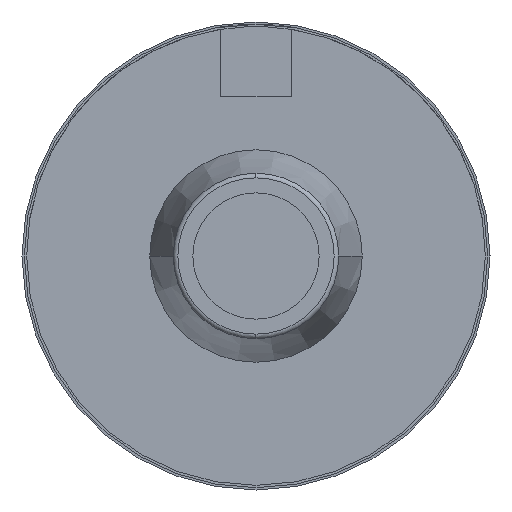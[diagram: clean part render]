
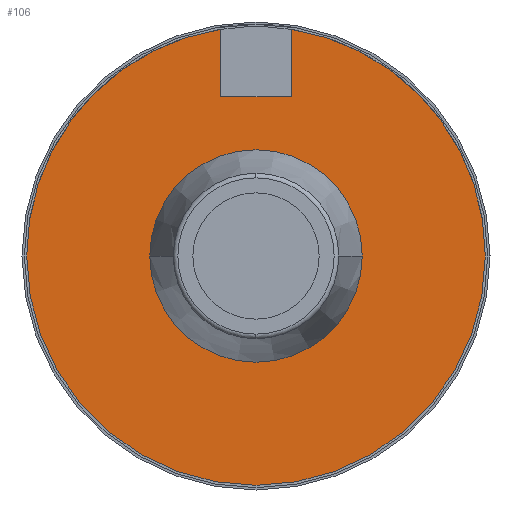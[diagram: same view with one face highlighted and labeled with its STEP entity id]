
A CAD part, left-side view. The second image highlights one B-rep face of the part: STEP entity #106.
In plain terms, the highlighted planar face has unit normal (-1, 0, 0).
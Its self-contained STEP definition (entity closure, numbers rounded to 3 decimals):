
#106 = ADVANCED_FACE( '', ( #183, #184 ), #185, .T. );
#183 = FACE_OUTER_BOUND( '', #271, .T. );
#184 = FACE_BOUND( '', #272, .T. );
#185 = PLANE( '', #273 );
#271 = EDGE_LOOP( '', ( #525, #526, #527, #528, #529, #530 ) );
#272 = EDGE_LOOP( '', ( #531, #532 ) );
#273 = AXIS2_PLACEMENT_3D( '', #533, #534, #535 );
#525 = ORIENTED_EDGE( '', *, *, #657, .T. );
#526 = ORIENTED_EDGE( '', *, *, #667, .T. );
#527 = ORIENTED_EDGE( '', *, *, #655, .T. );
#528 = ORIENTED_EDGE( '', *, *, #668, .T. );
#529 = ORIENTED_EDGE( '', *, *, #666, .T. );
#530 = ORIENTED_EDGE( '', *, *, #663, .T. );
#531 = ORIENTED_EDGE( '', *, *, #622, .F. );
#532 = ORIENTED_EDGE( '', *, *, #681, .F. );
#533 = CARTESIAN_POINT( '', ( 0., 6.773, 0. ) );
#534 = DIRECTION( '', ( -1., 0., 0. ) );
#535 = DIRECTION( '', ( 0., 1., 0. ) );
#622 = EDGE_CURVE( '', #734, #737, #738, .T. );
#655 = EDGE_CURVE( '', #795, #799, #801, .T. );
#657 = EDGE_CURVE( '', #805, #802, #806, .T. );
#663 = EDGE_CURVE( '', #815, #805, #816, .T. );
#666 = EDGE_CURVE( '', #818, #815, #820, .T. );
#667 = EDGE_CURVE( '', #802, #795, #821, .T. );
#668 = EDGE_CURVE( '', #799, #818, #822, .T. );
#681 = EDGE_CURVE( '', #737, #734, #835, .T. );
#734 = VERTEX_POINT( '', #892 );
#737 = VERTEX_POINT( '', #896 );
#738 = CIRCLE( '', #897, 3.746 );
#795 = VERTEX_POINT( '', #991 );
#799 = VERTEX_POINT( '', #996 );
#801 = CIRCLE( '', #999, 9.8 );
#802 = VERTEX_POINT( '', #1000 );
#805 = VERTEX_POINT( '', #1004 );
#806 = LINE( '', #1005, #1006 );
#815 = VERTEX_POINT( '', #1019 );
#816 = LINE( '', #1020, #1021 );
#818 = VERTEX_POINT( '', #1024 );
#820 = LINE( '', #1027, #1028 );
#821 = CIRCLE( '', #1029, 9.8 );
#822 = CIRCLE( '', #1030, 9.8 );
#835 = CIRCLE( '', #1068, 3.746 );
#892 = CARTESIAN_POINT( '', ( 0., 3.746, 0. ) );
#896 = CARTESIAN_POINT( '', ( 0., -3.746, 0. ) );
#897 = AXIS2_PLACEMENT_3D( '', #1143, #1144, #1145 );
#991 = CARTESIAN_POINT( '', ( 0., 9.8, 0. ) );
#996 = CARTESIAN_POINT( '', ( 0., -9.8, 0. ) );
#999 = AXIS2_PLACEMENT_3D( '', #1210, #1211, #1212 );
#1000 = CARTESIAN_POINT( '', ( 0., 1.5, 9.685 ) );
#1004 = CARTESIAN_POINT( '', ( 0., 1.5, 6.8 ) );
#1005 = CARTESIAN_POINT( '', ( 0., 1.5, 5.4 ) );
#1006 = VECTOR( '', #1214, 1. );
#1019 = CARTESIAN_POINT( '', ( 0., -1.5, 6.8 ) );
#1020 = CARTESIAN_POINT( '', ( 0., 4.136, 6.8 ) );
#1021 = VECTOR( '', #1222, 1. );
#1024 = CARTESIAN_POINT( '', ( 0., -1.5, 9.685 ) );
#1027 = CARTESIAN_POINT( '', ( 0., -1.5, 3.4 ) );
#1028 = VECTOR( '', #1225, 1. );
#1029 = AXIS2_PLACEMENT_3D( '', #1226, #1227, #1228 );
#1030 = AXIS2_PLACEMENT_3D( '', #1229, #1230, #1231 );
#1068 = AXIS2_PLACEMENT_3D( '', #1265, #1266, #1267 );
#1143 = CARTESIAN_POINT( '', ( 0., 0., 0. ) );
#1144 = DIRECTION( '', ( -1., 0., 0. ) );
#1145 = DIRECTION( '', ( 0., 1., 0. ) );
#1210 = CARTESIAN_POINT( '', ( 0., 0., 0. ) );
#1211 = DIRECTION( '', ( -1., 0., 0. ) );
#1212 = DIRECTION( '', ( 0., 1., 0. ) );
#1214 = DIRECTION( '', ( 0., 0., 1. ) );
#1222 = DIRECTION( '', ( 0., 1., 0. ) );
#1225 = DIRECTION( '', ( 0., 0., -1. ) );
#1226 = CARTESIAN_POINT( '', ( 0., 0., 0. ) );
#1227 = DIRECTION( '', ( -1., 0., 0. ) );
#1228 = DIRECTION( '', ( 0., 1., 0. ) );
#1229 = CARTESIAN_POINT( '', ( 0., 0., 0. ) );
#1230 = DIRECTION( '', ( -1., 0., 0. ) );
#1231 = DIRECTION( '', ( 0., 1., 0. ) );
#1265 = CARTESIAN_POINT( '', ( 0., 0., 0. ) );
#1266 = DIRECTION( '', ( -1., 0., 0. ) );
#1267 = DIRECTION( '', ( 0., 1., 0. ) );
